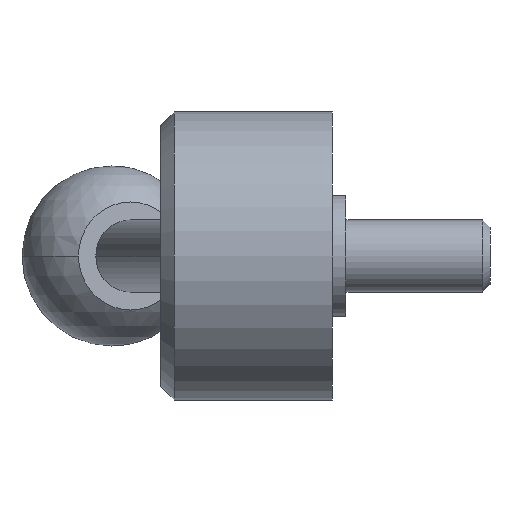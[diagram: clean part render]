
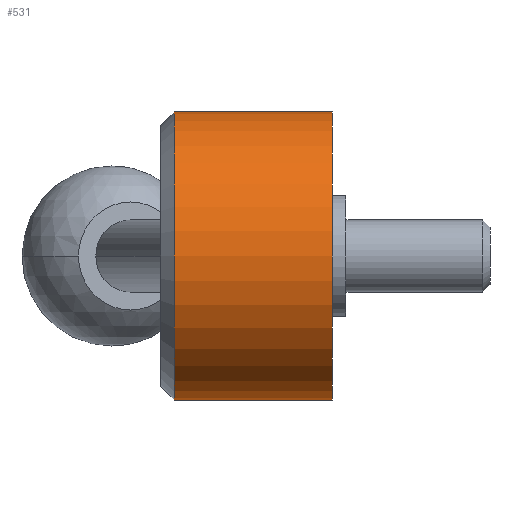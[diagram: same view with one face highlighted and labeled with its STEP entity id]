
A CAD part, left-side view. The second image highlights one B-rep face of the part: STEP entity #531.
In plain terms, the highlighted cylindrical face has radius 16 mm (diameter 32 mm), a partial arc.
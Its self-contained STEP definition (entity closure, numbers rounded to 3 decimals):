
#6 = VERTEX_POINT ( 'NONE', #306 ) ;
#35 = LINE ( 'NONE', #459, #702 ) ;
#74 = CARTESIAN_POINT ( 'NONE',  ( 0., 17.6, -16. ) ) ;
#107 = EDGE_CURVE ( 'NONE', #444, #6, #451, .T. ) ;
#109 = EDGE_CURVE ( 'NONE', #511, #444, #35, .T. ) ;
#114 = CARTESIAN_POINT ( 'NONE',  ( 0., 0., 0. ) ) ;
#148 = VECTOR ( 'NONE', #736, 1000. ) ;
#193 = LINE ( 'NONE', #473, #148 ) ;
#261 = DIRECTION ( 'NONE',  ( 0., -1., 0. ) ) ;
#276 = ORIENTED_EDGE ( 'NONE', *, *, #469, .T. ) ;
#284 = AXIS2_PLACEMENT_3D ( 'NONE', #114, #465, #596 ) ;
#306 = CARTESIAN_POINT ( 'NONE',  ( 0., 0., -16. ) ) ;
#329 = DIRECTION ( 'NONE',  ( 0., -1., 0. ) ) ;
#332 = CARTESIAN_POINT ( 'NONE',  ( 0., 17.6, 16. ) ) ;
#402 = DIRECTION ( 'NONE',  ( 0., -1., 0. ) ) ;
#414 = CIRCLE ( 'NONE', #776, 16. ) ;
#444 = VERTEX_POINT ( 'NONE', #648 ) ;
#451 = CIRCLE ( 'NONE', #284, 16. ) ;
#459 = CARTESIAN_POINT ( 'NONE',  ( 0., 0., 16. ) ) ;
#465 = DIRECTION ( 'NONE',  ( 0., -1., 0. ) ) ;
#469 = EDGE_CURVE ( 'NONE', #669, #6, #193, .T. ) ;
#473 = CARTESIAN_POINT ( 'NONE',  ( 0., 0., -16. ) ) ;
#493 = EDGE_CURVE ( 'NONE', #511, #669, #414, .T. ) ;
#511 = VERTEX_POINT ( 'NONE', #332 ) ;
#528 = CARTESIAN_POINT ( 'NONE',  ( 0., 0., 0. ) ) ;
#531 = ADVANCED_FACE ( 'NONE', ( #612 ), #805, .T. ) ;
#570 = ORIENTED_EDGE ( 'NONE', *, *, #109, .F. ) ;
#593 = CARTESIAN_POINT ( 'NONE',  ( 0., 17.6, 0. ) ) ;
#596 = DIRECTION ( 'NONE',  ( 0., 0., -1. ) ) ;
#612 = FACE_OUTER_BOUND ( 'NONE', #764, .T. ) ;
#648 = CARTESIAN_POINT ( 'NONE',  ( 0., 0., 16. ) ) ;
#664 = DIRECTION ( 'NONE',  ( 0., 0., -1. ) ) ;
#669 = VERTEX_POINT ( 'NONE', #74 ) ;
#687 = ORIENTED_EDGE ( 'NONE', *, *, #493, .T. ) ;
#690 = AXIS2_PLACEMENT_3D ( 'NONE', #528, #329, #664 ) ;
#702 = VECTOR ( 'NONE', #261, 1000. ) ;
#729 = ORIENTED_EDGE ( 'NONE', *, *, #107, .F. ) ;
#736 = DIRECTION ( 'NONE',  ( 0., -1., 0. ) ) ;
#740 = DIRECTION ( 'NONE',  ( 0., 0., 1. ) ) ;
#764 = EDGE_LOOP ( 'NONE', ( #570, #687, #276, #729 ) ) ;
#776 = AXIS2_PLACEMENT_3D ( 'NONE', #593, #402, #740 ) ;
#805 = CYLINDRICAL_SURFACE ( 'NONE', #690, 16. ) ;
